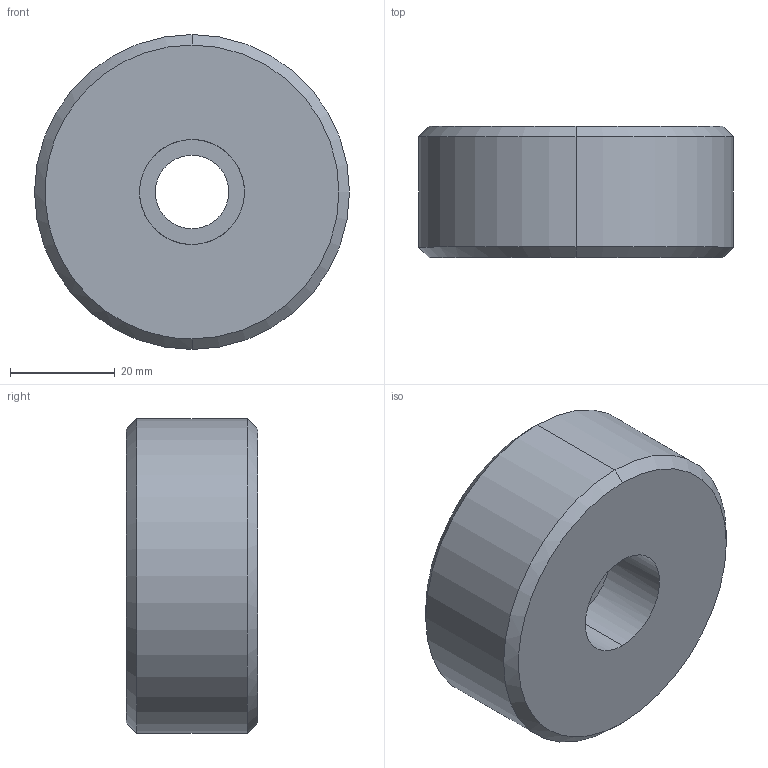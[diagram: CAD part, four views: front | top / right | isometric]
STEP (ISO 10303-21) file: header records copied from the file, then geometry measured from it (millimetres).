
FILE_DESCRIPTION(('CATIA V5 STEP Exchange'),'2;1');
FILE_NAME('C:\Users\Utente\Desktop\IO LAVORO\3D X SITO CF\X 3D SITO CF 27-09-2020\758\758+60+25+12.stp','2020-10-28T19:28:36+00:00',('none'),('none'),'CATIA Version 5 Release 20 GA (IN-10)','CATIA V5 STEP AP203','none');
FILE_SCHEMA(('CONFIG_CONTROL_DESIGN'));
Length unit declared in the file: millimetre
Products named in the file (1): 758+60+25+12
Bounding box: 60 x 25 x 60 mm (x, y, z)
Volume: 64017.3 mm3; surface area: 10951.9 mm2
Topology: 1 solids, 1 shells, 13 faces, 26 edges, 16 vertices
Faces by surface type: cylinder 6, cone 4, plane 3
Entity records: 521 total; most frequent: CARTESIAN_POINT 217, ORIENTED_EDGE 52, DIRECTION 45, EDGE_CURVE 26, AXIS2_PLACEMENT_3D 23, EDGE_LOOP 16, VERTEX_POINT 16, ADVANCED_FACE 13
